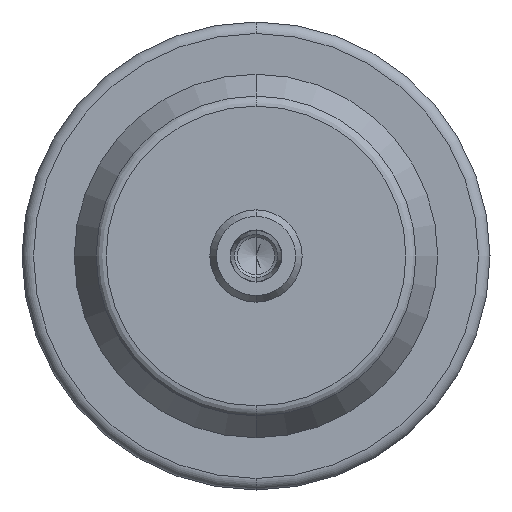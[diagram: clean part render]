
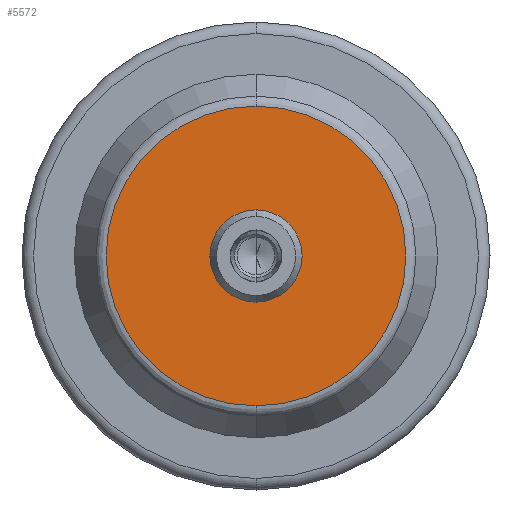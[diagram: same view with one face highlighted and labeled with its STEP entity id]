
A CAD part, front view. The second image highlights one B-rep face of the part: STEP entity #5572.
In plain terms, the highlighted planar face has unit normal (0, -1, 0).
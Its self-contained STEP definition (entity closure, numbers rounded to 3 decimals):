
#849 = CARTESIAN_POINT ( 'NONE',  ( 0., 0., 0. ) ) ;
#851 = CIRCLE ( 'NONE', #4395, 7.75 ) ;
#885 = VERTEX_POINT ( 'NONE', #6065 ) ;
#1404 = AXIS2_PLACEMENT_3D ( 'NONE', #849, #8937, #7345 ) ;
#1430 = CARTESIAN_POINT ( 'NONE',  ( 0., 0., -25.969 ) ) ;
#1553 = EDGE_CURVE ( 'NONE', #885, #8685, #9937, .T. ) ;
#1854 = CIRCLE ( 'NONE', #1404, 7.75 ) ;
#1949 = ORIENTED_EDGE ( 'NONE', *, *, #5186, .F. ) ;
#2146 = CARTESIAN_POINT ( 'NONE',  ( 0., 0., -7.75 ) ) ;
#2209 = AXIS2_PLACEMENT_3D ( 'NONE', #10256, #2310, #7890 ) ;
#2310 = DIRECTION ( 'NONE',  ( 0., 1., 0. ) ) ;
#2921 = ORIENTED_EDGE ( 'NONE', *, *, #3869, .T. ) ;
#3684 = EDGE_CURVE ( 'NONE', #9666, #5796, #851, .T. ) ;
#3869 = EDGE_CURVE ( 'NONE', #5796, #9666, #1854, .T. ) ;
#4338 = FACE_BOUND ( 'NONE', #9248, .T. ) ;
#4395 = AXIS2_PLACEMENT_3D ( 'NONE', #4619, #10158, #7031 ) ;
#4503 = DIRECTION ( 'NONE',  ( 0., 1., 0. ) ) ;
#4619 = CARTESIAN_POINT ( 'NONE',  ( 0., 0., 0. ) ) ;
#5154 = CARTESIAN_POINT ( 'NONE',  ( 0., 0., 7.75 ) ) ;
#5186 = EDGE_CURVE ( 'NONE', #8685, #885, #6580, .T. ) ;
#5249 = AXIS2_PLACEMENT_3D ( 'NONE', #6820, #4503, #6007 ) ;
#5548 = PLANE ( 'NONE',  #8561 ) ;
#5572 = ADVANCED_FACE ( 'NONE', ( #4338, #9197 ), #5548, .T. ) ;
#5654 = ORIENTED_EDGE ( 'NONE', *, *, #1553, .F. ) ;
#5796 = VERTEX_POINT ( 'NONE', #5154 ) ;
#6007 = DIRECTION ( 'NONE',  ( 0., 0., 1. ) ) ;
#6065 = CARTESIAN_POINT ( 'NONE',  ( 0., 0., 25.969 ) ) ;
#6580 = CIRCLE ( 'NONE', #2209, 25.969 ) ;
#6820 = CARTESIAN_POINT ( 'NONE',  ( 0., 0., 0. ) ) ;
#7031 = DIRECTION ( 'NONE',  ( 0., 0., 1. ) ) ;
#7119 = CARTESIAN_POINT ( 'NONE',  ( 0., 0., 0. ) ) ;
#7345 = DIRECTION ( 'NONE',  ( 0., 0., 1. ) ) ;
#7890 = DIRECTION ( 'NONE',  ( 0., 0., 1. ) ) ;
#7913 = DIRECTION ( 'NONE',  ( 0., 0., -1. ) ) ;
#7935 = EDGE_LOOP ( 'NONE', ( #5654, #1949 ) ) ;
#8561 = AXIS2_PLACEMENT_3D ( 'NONE', #7119, #9530, #7913 ) ;
#8685 = VERTEX_POINT ( 'NONE', #1430 ) ;
#8937 = DIRECTION ( 'NONE',  ( 0., 1., 0. ) ) ;
#9197 = FACE_OUTER_BOUND ( 'NONE', #7935, .T. ) ;
#9242 = ORIENTED_EDGE ( 'NONE', *, *, #3684, .T. ) ;
#9248 = EDGE_LOOP ( 'NONE', ( #2921, #9242 ) ) ;
#9530 = DIRECTION ( 'NONE',  ( 0., -1., 0. ) ) ;
#9666 = VERTEX_POINT ( 'NONE', #2146 ) ;
#9937 = CIRCLE ( 'NONE', #5249, 25.969 ) ;
#10158 = DIRECTION ( 'NONE',  ( 0., 1., 0. ) ) ;
#10256 = CARTESIAN_POINT ( 'NONE',  ( 0., 0., 0. ) ) ;
